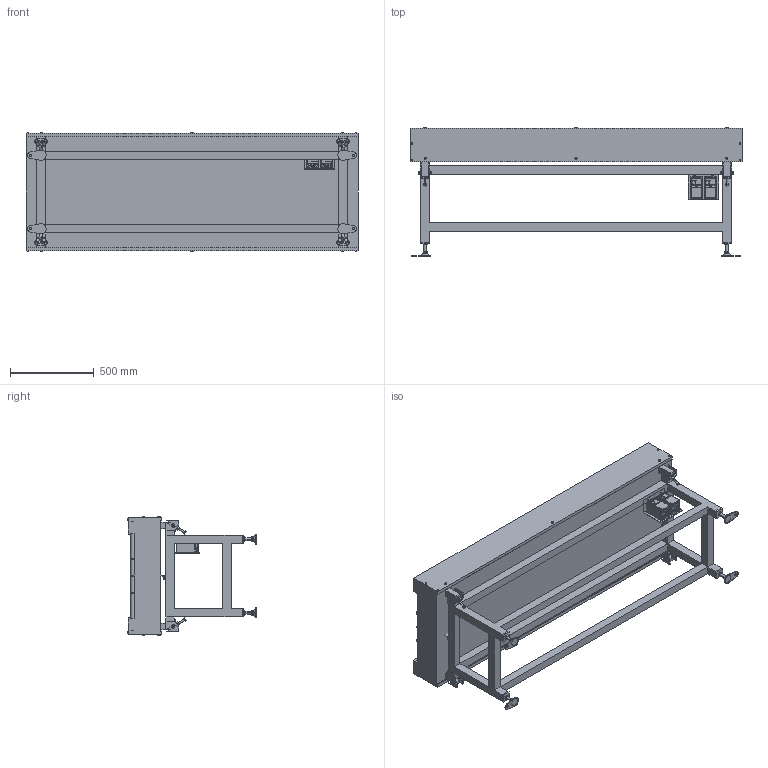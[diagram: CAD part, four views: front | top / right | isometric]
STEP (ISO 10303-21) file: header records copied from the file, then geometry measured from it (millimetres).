
FILE_DESCRIPTION( (''), '2;1');
FILE_NAME ('GA20H-304×2-500-200-L-IVH-18.stp','2024-05-20T09:44:12',(''),(''),'spGate 20.6.2 (****-****-****-****)','','');
FILE_SCHEMA (('AUTOMOTIVE_DESIGN'));
Length unit declared in the file: millimetre
Products named in the file (110): NewModel; TEMP_X_T-prt0; TEMP_X_T-prt1; TEMP_X_T-prt2; TEMP_X_T-prt3; TEMP_X_T-prt4; TEMP_X_T-prt5; TEMP_X_T-prt6; TEMP_X_T-prt7; TEMP_X_T-prt8; TEMP_X_T-prt9; TEMP_X_T-prt10; TEMP_X_T-prt11; TEMP_X_T-prt12; TEMP_X_T-prt13; TEMP_X_T-prt14; TEMP_X_T-prt15; TEMP_X_T-prt16; TEMP_X_T-prt17; TEMP_X_T-prt18; TEMP_X_T-prt19; TEMP_X_T-prt20; TEMP_X_T-prt21; TEMP_X_T-prt22; TEMP_X_T-prt23; TEMP_X_T-prt24; TEMP_X_T-prt25; TEMP_X_T-prt26; TEMP_X_T-prt27; TEMP_X_T-prt28; TEMP_X_T-prt29; TEMP_X_T-prt30; TEMP_X_T-prt31; TEMP_X_T-prt32; TEMP_X_T-prt33; TEMP_X_T-prt34; TEMP_X_T-prt35; TEMP_X_T-prt36; TEMP_X_T-prt37; TEMP_X_T-prt38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
Assembly tree (109 placements, depth 2):
  NewModel
    TEMP_X_T-prt0
    TEMP_X_T-prt1
    TEMP_X_T-prt2
    TEMP_X_T-prt3
    TEMP_X_T-prt4
    TEMP_X_T-prt5
    TEMP_X_T-prt6
    TEMP_X_T-prt7
    TEMP_X_T-prt8
    TEMP_X_T-prt9
    TEMP_X_T-prt10
    TEMP_X_T-prt11
    TEMP_X_T-prt12
    TEMP_X_T-prt13
    TEMP_X_T-prt14
    TEMP_X_T-prt15
    TEMP_X_T-prt16
    TEMP_X_T-prt17
    TEMP_X_T-prt18
    TEMP_X_T-prt19
    TEMP_X_T-prt20
    TEMP_X_T-prt21
    TEMP_X_T-prt22
    TEMP_X_T-prt23
    TEMP_X_T-prt24
    TEMP_X_T-prt25
    TEMP_X_T-prt26
    TEMP_X_T-prt27
    TEMP_X_T-prt28
    TEMP_X_T-prt29
    TEMP_X_T-prt30
    TEMP_X_T-prt31
    TEMP_X_T-prt32
    TEMP_X_T-prt33
    TEMP_X_T-prt34
    TEMP_X_T-prt35
    TEMP_X_T-prt36
    TEMP_X_T-prt37
    TEMP_X_T-prt38
    TEMP_X_T-prt39
    TEMP_X_T-prt40
    TEMP_X_T-prt41
    TEMP_X_T-prt42
    TEMP_X_T-prt43
    TEMP_X_T-prt44
    TEMP_X_T-prt45
    TEMP_X_T-prt46
    TEMP_X_T-prt47
    TEMP_X_T-prt48
    TEMP_X_T-prt49
    TEMP_X_T-prt50
    TEMP_X_T-prt51
    TEMP_X_T-prt52
    TEMP_X_T-prt53
    TEMP_X_T-prt54
    TEMP_X_T-prt55
    TEMP_X_T-prt56
    TEMP_X_T-prt57
    TEMP_X_T-prt58
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Bounding box: 1985 x 768.7 x 714.2 mm (x, y, z)
Volume: 291511492.4 mm3; surface area: 11541906.1 mm2
Topology: 109 solids, 109 shells, 4102 faces, 10051 edges, 6564 vertices
Faces by surface type: plane 2840, cylinder 1166, bspline 88, sphere 8
Entity records: 205894 total; most frequent: CARTESIAN_POINT 23969, ORIENTED_EDGE 20086, DIRECTION 20023, COLOUR_RGB 14254, PRESENTATION_STYLE_ASSIGNMENT 14254, STYLED_ITEM 14254, EDGE_CURVE 10043, DRAUGHTING_PRE_DEFINED_CURVE_FONT 10043
